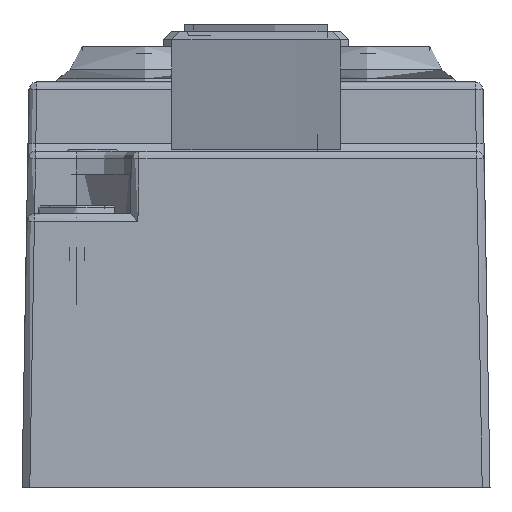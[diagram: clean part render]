
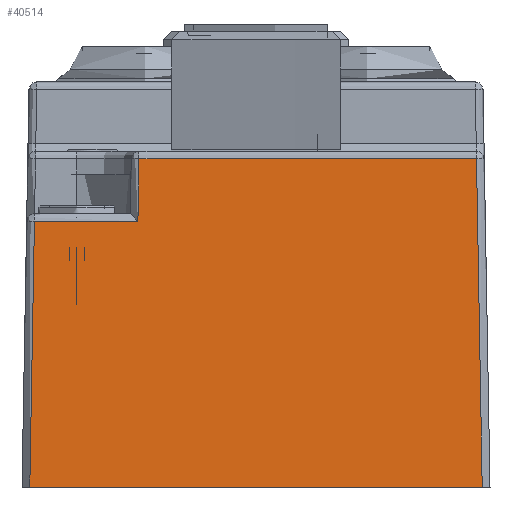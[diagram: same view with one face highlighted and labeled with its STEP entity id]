
A CAD part, left-side view. The second image highlights one B-rep face of the part: STEP entity #40514.
In plain terms, the highlighted planar face has unit normal (-1, 0, 0.018).
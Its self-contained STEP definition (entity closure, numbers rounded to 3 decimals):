
#3532 = VECTOR ( 'NONE', #52004, 1000. ) ;
#6485 = VECTOR ( 'NONE', #38636, 1000. ) ;
#7441 = DIRECTION ( 'NONE',  ( 0.017, 0., 1. ) ) ;
#8300 = FACE_OUTER_BOUND ( 'NONE', #40347, .T. ) ;
#12630 = VERTEX_POINT ( 'NONE', #146032 ) ;
#23396 = CARTESIAN_POINT ( 'NONE',  ( -87.454, -14.516, -26. ) ) ;
#32203 = ORIENTED_EDGE ( 'NONE', *, *, #46775, .T. ) ;
#34236 = EDGE_CURVE ( 'NONE', #12630, #97444, #148709, .T. ) ;
#38574 = EDGE_CURVE ( 'NONE', #51063, #93046, #98533, .T. ) ;
#38636 = DIRECTION ( 'NONE',  ( 0.017, 0.017, 1. ) ) ;
#38639 = CARTESIAN_POINT ( 'NONE',  ( -87.454, 14.516, -26. ) ) ;
#40347 = EDGE_LOOP ( 'NONE', ( #32203, #53160, #51994, #119167, #152207, #120974 ) ) ;
#40514 = ADVANCED_FACE ( 'NONE', ( #8300 ), #138078, .T. ) ;
#46775 = EDGE_CURVE ( 'NONE', #140933, #51063, #47948, .T. ) ;
#47948 = LINE ( 'NONE', #66938, #111300 ) ;
#48369 = EDGE_CURVE ( 'NONE', #71371, #12630, #82810, .T. ) ;
#51063 = VERTEX_POINT ( 'NONE', #95160 ) ;
#51994 = ORIENTED_EDGE ( 'NONE', *, *, #56775, .T. ) ;
#52004 = DIRECTION ( 'NONE',  ( -0.017, 0.017, -1. ) ) ;
#53160 = ORIENTED_EDGE ( 'NONE', *, *, #38574, .T. ) ;
#56775 = EDGE_CURVE ( 'NONE', #93046, #71371, #154279, .T. ) ;
#66804 = CARTESIAN_POINT ( 'NONE',  ( -87., 14.562, 0. ) ) ;
#66938 = CARTESIAN_POINT ( 'NONE',  ( -87.156, 14.562, -8.941 ) ) ;
#70100 = DIRECTION ( 'NONE',  ( 0., 1., 0. ) ) ;
#71371 = VERTEX_POINT ( 'NONE', #23396 ) ;
#74858 = CARTESIAN_POINT ( 'NONE',  ( -87.086, 7.509, -4.941 ) ) ;
#78796 = DIRECTION ( 'NONE',  ( -1., 0., 0.017 ) ) ;
#80737 = VECTOR ( 'NONE', #107896, 1000. ) ;
#82810 = LINE ( 'NONE', #109946, #6485 ) ;
#84937 = EDGE_CURVE ( 'NONE', #97444, #140933, #144073, .T. ) ;
#87966 = CARTESIAN_POINT ( 'NONE',  ( -87., 14.062, -0.009 ) ) ;
#89139 = VECTOR ( 'NONE', #70100, 1000. ) ;
#90943 = VECTOR ( 'NONE', #144957, 1000. ) ;
#93046 = VERTEX_POINT ( 'NONE', #38639 ) ;
#95160 = CARTESIAN_POINT ( 'NONE',  ( -87.156, 14.218, -8.941 ) ) ;
#95978 = CARTESIAN_POINT ( 'NONE',  ( -87.148, 7.57, -8.459 ) ) ;
#97318 = CARTESIAN_POINT ( 'NONE',  ( -87.156, 7.578, -8.941 ) ) ;
#97444 = VERTEX_POINT ( 'NONE', #74858 ) ;
#98533 = LINE ( 'NONE', #87966, #3532 ) ;
#105964 = CARTESIAN_POINT ( 'NONE',  ( -87.086, 8., -4.941 ) ) ;
#107896 = DIRECTION ( 'NONE',  ( -0.017, 0.017, -1. ) ) ;
#109946 = CARTESIAN_POINT ( 'NONE',  ( -86.991, -14.053, 0.499 ) ) ;
#111300 = VECTOR ( 'NONE', #150203, 1000. ) ;
#119167 = ORIENTED_EDGE ( 'NONE', *, *, #48369, .T. ) ;
#120974 = ORIENTED_EDGE ( 'NONE', *, *, #84937, .T. ) ;
#132961 = CARTESIAN_POINT ( 'NONE',  ( -87.454, 14.562, -26. ) ) ;
#138078 = PLANE ( 'NONE',  #152587 ) ;
#140933 = VERTEX_POINT ( 'NONE', #97318 ) ;
#144073 = LINE ( 'NONE', #95978, #80737 ) ;
#144957 = DIRECTION ( 'NONE',  ( 0., -1., 0. ) ) ;
#146032 = CARTESIAN_POINT ( 'NONE',  ( -87.086, -14.148, -4.941 ) ) ;
#148709 = LINE ( 'NONE', #105964, #89139 ) ;
#150203 = DIRECTION ( 'NONE',  ( 0., 1., 0. ) ) ;
#152207 = ORIENTED_EDGE ( 'NONE', *, *, #34236, .T. ) ;
#152587 = AXIS2_PLACEMENT_3D ( 'NONE', #66804, #78796, #7441 ) ;
#154279 = LINE ( 'NONE', #132961, #90943 ) ;
